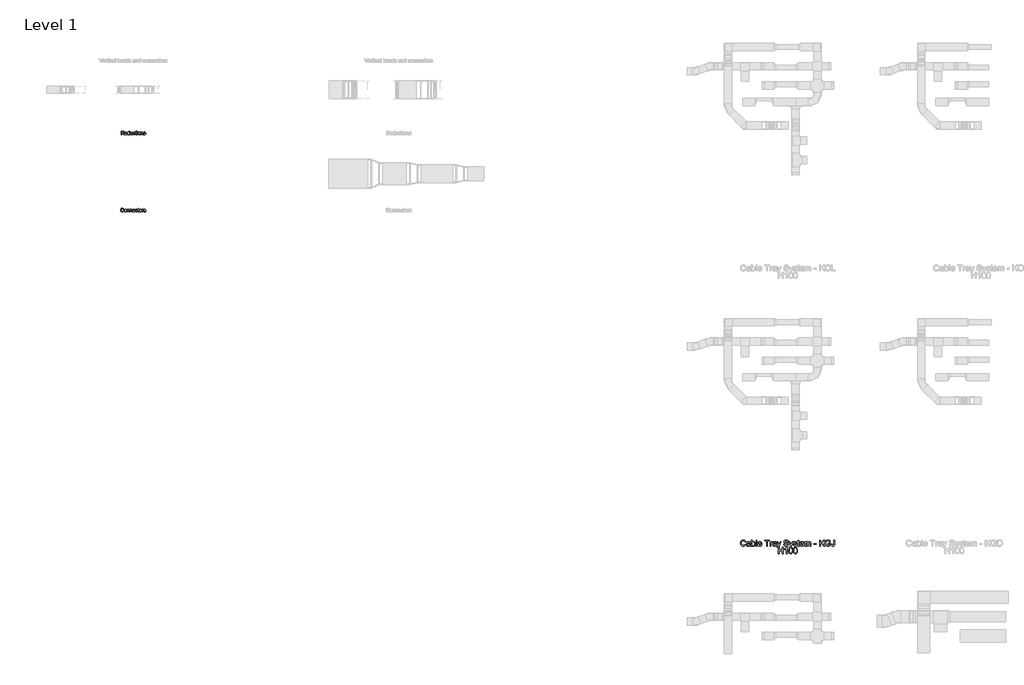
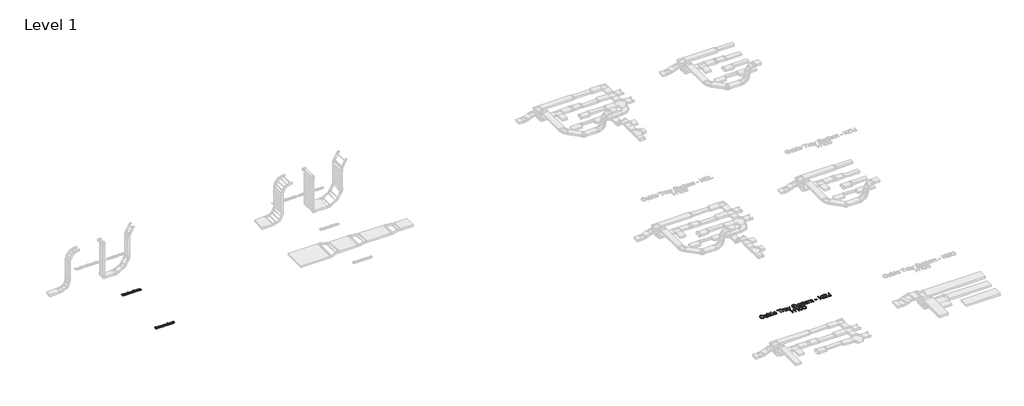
# One storey, part 93 of 106: 3 proxies.
"""IFC4 building model written with IfcOpenShell, lengths in millimetres."""

from ifc_helpers import new_model, si_unit, origin, origin_with_axes, place, context, project, spatial, polyline, outline, extrude, element, save

model = new_model("IFC4")

# Units and contexts
model_context = context("Model", 3, world=origin())
ifc_project = project(units=[si_unit("LENGTHUNIT", "METRE", prefix="MILLI")], contexts=[model_context])

# Site, building, storey
site = spatial("IfcSite", under=ifc_project)
building = spatial("IfcBuilding", under=site)
storey = spatial("IfcBuildingStorey", under=building, Name="Level 1", Elevation=0.0)

# Proxies
placement = place(None, origin())
element("IfcBuildingElementProxy", 1, Name="150mm Arial 2", ObjectType="150mm Arial 2", at=placement, inside=storey, context=model_context, shape_type="SweptSolid", body=[
    extrude(outline(polyline([(131812.5466362, 54347.8476348), (131812.5466362, 54498.5321), (131877.4778084, 54498.5321), (131907.6257379, 54494.467004), (131916.9055612, 54488.8384094), (131924.1068512, 54480.0828179), (131928.7283688, 54469.2257006), (131930.2688747, 54457.2925283), (131927.7166933, 54442.4484898), (131920.0601493, 54430.1428371), (131907.0693163, 54421.1205312), (131888.5142682, 54416.1265331), (131899.2196343, 54408.0699174), (131914.4867371, 54388.6825362), (131939.6130773, 54347.8476348), (131917.7240986, 54347.8476348), (131898.1159883, 54379.0808162), (131883.9525315, 54399.7557843), (131874.0013235, 54409.5230513), (131865.0433969, 54413.1099007), (131854.1173017, 54413.7720883), (131831.3821944, 54413.7720883), (131831.3821944, 54347.8476348), (131812.5466362, 54347.8476348)]), holes=[polyline([(131831.3821944, 54432.6076465), (131873.541471, 54432.6076465), (131895.0441736, 54435.2747909), (131907.2578559, 54443.8096532), (131911.4333165, 54456.5935526), (131909.4421552, 54465.7814054), (131903.4686713, 54473.1850305), (131893.1909681, 54478.068664), (131878.2871487, 54479.6965419), (131831.3821944, 54479.6965419), (131831.3821944, 54432.6076465)])]), origin_with_axes(), (0.0, 0.0, 1.0), 15.0),
    extrude(outline(polyline([(132038.3526048, 54380.8098615), (132056.820281, 54378.4554168), (132050.1662154, 54364.5402803), (132039.5482213, 54354.1384169), (132025.205422, 54347.6544967), (132007.3769409, 54345.49319), (131985.27643, 54349.2225937), (131968.2710848, 54360.4108049), (131957.427763, 54378.3312566), (131953.8133224, 54402.2573819), (131957.4645512, 54426.988249), (131968.4182376, 54445.4835163), (131985.1936565, 54457.0166168), (132006.3100831, 54460.8609837), (132026.7689205, 54457.0258139), (132043.1166767, 54445.5203045), (132053.8358383, 54427.0618254), (132057.4088922, 54402.3677465), (132057.2985276, 54397.2909749), (131972.6488805, 54397.2909749), (131975.9092347, 54383.1918975), (131983.4830053, 54372.8268223), (131994.413699, 54366.4532667), (132007.7448228, 54364.3287482), (132026.212499, 54368.2650855), (132038.3526048, 54380.8098615)]), holes=[polyline([(131972.6488805, 54416.1265331), (132038.573334, 54416.1265331), (132036.0257512, 54426.0777411), (132031.0317531, 54433.1962577), (132020.0504756, 54439.8181336), (132006.2365067, 54442.0254255), (131993.5399793, 54440.2641905), (131983.0415469, 54434.9804853), (131975.7436878, 54426.7445272), (131972.6488805, 54416.1265331)])]), origin_with_axes(), (0.0, 0.0, 1.0), 15.0),
    extrude(outline(polyline([(132144.5233487, 54347.8476348), (132144.5233487, 54365.6163351), (132132.0613461, 54350.5239763), (132114.8352716, 54345.49319), (132102.6583776, 54347.3142059), (132091.5115531, 54352.7772535), (132082.07538, 54361.5006553), (132075.0304398, 54373.1027337), (132070.643447, 54387.1144392), (132069.181116, 54403.0667223), (132074.5705873, 54433.0491049), (132081.3028278, 54444.9408904), (132090.7206069, 54453.6872848), (132102.1111531, 54459.067559), (132114.7616952, 54460.8609837), (132132.1257254, 54455.7290299), (132144.5233487, 54442.3933075), (132144.5233487, 54498.5321), (132163.3589068, 54498.5321), (132163.3589068, 54347.8476348), (132144.5233487, 54347.8476348)]), holes=[polyline([(132088.0166742, 54403.1402987), (132090.1411927, 54386.1027638), (132096.5147483, 54373.9856505), (132105.7761775, 54366.7429738), (132116.564317, 54364.3287482), (132127.347858, 54366.6326092), (132136.3747625, 54373.5441921), (132142.4862021, 54385.1922558), (132144.5233487, 54401.7055589), (132142.4494139, 54419.7593678), (132136.2276097, 54432.2765527), (132126.970779, 54439.5882073), (132115.7917648, 54442.0254255), (132104.8932607, 54439.6847764), (132095.9629253, 54432.6628288), (132090.003237, 54420.6008979), (132088.0166742, 54403.1402987)])]), origin_with_axes(), (0.0, 0.0, 1.0), 15.0),
    extrude(outline(polyline([(132262.2455871, 54347.8476348), (132262.2455871, 54366.8671339), (132247.4935191, 54350.836676), (132228.2532908, 54345.49319), (132210.5397727, 54349.2455864), (132198.3260904, 54358.6633654), (132192.71589, 54372.5325167), (132191.612244, 54390.0436996), (132191.612244, 54458.5065389), (132210.4478022, 54458.5065389), (132210.4478022, 54398.9096557), (132211.5882364, 54379.7062156), (132219.0378468, 54368.4306324), (132233.0725449, 54364.3287482), (132248.7995002, 54368.5226029), (132259.1921666, 54379.9453389), (132262.2455871, 54400.9330067), (132262.2455871, 54458.5065389), (132281.0811453, 54458.5065389), (132281.0811453, 54347.8476348), (132262.2455871, 54347.8476348)])), origin_with_axes(), (0.0, 0.0, 1.0), 15.0),
    extrude(outline(polyline([(132377.6133808, 54387.8731959), (132396.448939, 54385.5187511), (132391.1974235, 54368.7663247), (132381.3289889, 54356.1065856), (132367.7725374, 54348.1465389), (132351.4569709, 54345.49319), (132331.4211978, 54349.1950026), (132315.7540233, 54360.3004403), (132305.641867, 54378.3220596), (132302.2711482, 54402.7724167), (132303.7104865, 54419.5340401), (132308.0285014, 54434.0607803), (132315.2941708, 54445.7916175), (132325.5764726, 54454.1655314), (132337.8775268, 54459.1871206), (132351.1994535, 54460.8609837), (132367.1149484, 54458.5617212), (132379.8390669, 54451.6639338), (132388.9671389, 54440.5355035), (132394.0944942, 54425.5443122), (132375.258936, 54423.1898674), (132366.5217386, 54437.2981419), (132351.3466063, 54442.0254255), (132339.1743108, 54439.6985719), (132329.5128099, 54432.7180111), (132323.2082322, 54420.7066639), (132321.1067063, 54403.2874515), (132323.162247, 54385.6337142), (132329.3288689, 54373.5809803), (132338.8156259, 54366.6418062), (132350.8315715, 54364.3287482), (132360.5850429, 54365.772685), (132368.5818778, 54370.1044955), (132374.3990119, 54377.4345442), (132377.6133808, 54387.8731959)])), origin_with_axes(), (0.0, 0.0, 1.0), 15.0),
    extrude(outline(polyline([(132452.9556134, 54363.556196), (132455.3100582, 54347.2958118), (132441.2201778, 54345.49319), (132425.4380402, 54348.620187), (132417.5653655, 54356.8239555), (132415.2844971, 54378.1978994), (132415.2844971, 54439.6709808), (132401.1578285, 54439.6709808), (132401.1578285, 54458.5065389), (132415.2844971, 54458.5065389), (132415.2844971, 54485.3987128), (132434.1200553, 54496.4719608), (132434.1200553, 54458.5065389), (132452.9556134, 54458.5065389), (132452.9556134, 54439.6709808), (132434.1200553, 54439.6709808), (132434.1200553, 54378.7497224), (132435.1133366, 54369.0376377), (132438.3323041, 54365.597941), (132444.7518449, 54364.3287482), (132452.9556134, 54363.556196)])), origin_with_axes(), (0.0, 0.0, 1.0), 15.0),
    extrude(outline(polyline([(132471.7911716, 54479.6965419), (132471.7911716, 54498.5321), (132490.6267297, 54498.5321), (132490.6267297, 54479.6965419), (132471.7911716, 54479.6965419)])), origin_with_axes(), (0.0, 0.0, 1.0), 15.0),
    extrude(outline(polyline([(132471.7911716, 54347.8476348), (132471.7911716, 54458.5065389), (132490.6267297, 54458.5065389), (132490.6267297, 54347.8476348), (132471.7911716, 54347.8476348)])), origin_with_axes(), (0.0, 0.0, 1.0), 15.0),
    extrude(outline(polyline([(132514.1711774, 54403.1770869), (132518.2454705, 54429.8577286), (132530.4683498, 54448.6105133), (132545.5699057, 54457.7983661), (132563.6513058, 54460.8609837), (132583.4387586, 54457.13158), (132599.2438888, 54445.9433688), (132609.6043655, 54428.179267), (132613.0578577, 54404.7221912), (132611.5311474, 54385.693495), (132606.9510166, 54371.2081415), (132599.4508224, 54360.3602211), (132589.1639221, 54352.2438246), (132576.9456414, 54347.1808487), (132563.6513058, 54345.49319), (132543.6247296, 54349.2087982), (132527.8379935, 54360.3556226), (132517.5878814, 54378.492205), (132514.1711774, 54403.1770869)]), holes=[polyline([(132533.0067356, 54403.2138751), (132535.1864364, 54386.1671431), (132541.7255388, 54374.0224387), (132551.5663822, 54366.7521708), (132563.6513058, 54364.3287482), (132575.681047, 54366.7659664), (132585.5034963, 54374.077621), (132592.0425987, 54386.3832738), (132594.2222996, 54403.8024862), (132592.0288032, 54420.3525775), (132585.448314, 54432.331735), (132575.6120691, 54439.6020029), (132563.6513058, 54442.0254255), (132551.5663822, 54439.6112), (132541.7255388, 54432.3685232), (132535.1864364, 54420.25141), (132533.0067356, 54403.2138751)])]), origin_with_axes(), (0.0, 0.0, 1.0), 15.0),
    extrude(outline(polyline([(132634.2478606, 54347.8476348), (132634.2478606, 54458.5065389), (132653.0834188, 54458.5065389), (132653.0834188, 54443.0554951), (132667.4859989, 54456.4096116), (132687.1492915, 54460.8609837), (132704.936386, 54457.2741342), (132717.0764918, 54447.8563552), (132722.7234805, 54434.0055981), (132723.7167619, 54415.7954393), (132723.7167619, 54347.8476348), (132704.8812037, 54347.8476348), (132704.8812037, 54413.2570535), (132702.7106999, 54429.9221079), (132695.0403603, 54438.7328817), (132682.1093082, 54442.0254255), (132671.0774469, 54440.1768185), (132661.6734634, 54434.6309974), (132655.2309299, 54423.9164343), (132653.0834188, 54406.5616012), (132653.0834188, 54347.8476348), (132634.2478606, 54347.8476348)])), origin_with_axes(), (0.0, 0.0, 1.0), 15.0),
    extrude(outline(polyline([(132742.55232, 54380.8098615), (132761.3878782, 54383.1643063), (132764.3585253, 54375.1076906), (132770.1066815, 54369.1847905), (132790.0826738, 54364.3287482), (132809.2861139, 54368.7801203), (132815.5401079, 54379.227969), (132813.9674123, 54384.028829), (132809.2493257, 54387.6892549), (132789.8619446, 54393.060332), (132761.4982428, 54402.275776), (132749.1190136, 54413.0363243), (132744.9067648, 54428.2298507), (132748.2912791, 54442.2645488), (132757.5251172, 54452.988309), (132769.4996762, 54458.5617212), (132785.704878, 54460.8609837), (132808.6239263, 54457.1637696), (132823.1920534, 54447.1573794), (132829.6667765, 54430.2532017), (132810.8312183, 54427.8987569), (132803.7494899, 54438.2914233), (132787.176406, 54442.0254255), (132769.1501883, 54438.4569702), (132763.7423229, 54430.1428371), (132765.9864031, 54424.6613954), (132773.0129492, 54420.5043288), (132789.2365452, 54416.4944151), (132816.8828771, 54407.628459), (132829.7219588, 54397.5852805), (132834.375666, 54381.2145317), (132828.9126184, 54363.188314), (132813.1488749, 54350.1101091), (132789.8251564, 54345.49319), (132770.8332484, 54347.7188761), (132756.9732942, 54354.3959343), (132747.721062, 54365.4507882), (132742.55232, 54380.8098615)])), origin_with_axes(), (0.0, 0.0, 1.0), 15.0),
])
element("IfcBuildingElementProxy", 2, Name="150mm Arial 2", ObjectType="150mm Arial 2", at=placement, inside=storey, context=model_context, shape_type="SweptSolid", body=[
    extrude(outline(polyline([(131906.724427, 51201.4112533), (131925.5599851, 51196.5552109), (131916.868773, 51174.6064514), (131903.229548, 51158.5713949), (131885.3136949, 51148.7627412), (131863.7925981, 51145.49319), (131841.9450061, 51147.9671964), (131824.5947715, 51155.3892157), (131811.2958374, 51167.5017304), (131801.6021469, 51184.0472231), (131795.6838453, 51203.4989836), (131793.7110781, 51224.3303016), (131795.9413626, 51246.3020537), (131802.6322164, 51265.2755676), (131813.4341515, 51280.6484365), (131827.99768, 51291.8182536), (131845.2697397, 51298.619472), (131864.1972683, 51300.8865448), (131884.8492438, 51297.9526859), (131901.9235669, 51289.1511091), (131914.8868087, 51275.0244405), (131923.2055404, 51256.115306), (131904.3699822, 51251.6271456), (131897.8400768, 51265.3629396), (131888.9189384, 51274.7853172), (131877.4962025, 51280.2345693), (131863.4615043, 51282.0509866), (131847.2838936, 51280.0368327), (131833.9941565, 51273.9943709), (131823.9095913, 51264.5581977), (131817.3474962, 51252.3629096), (131812.5466362, 51224.3670898), (131813.9675804, 51206.9662714), (131818.230413, 51191.9198978), (131825.4960824, 51179.8027846), (131835.925537, 51171.1897474), (131848.4289263, 51166.043998), (131861.9164, 51164.3287482), (131877.6387567, 51166.6647988), (131890.7399543, 51173.6729508), (131900.6313814, 51185.2796278), (131906.724427, 51201.4112533)])), origin_with_axes(), (0.0, 0.0, 1.0), 15.0),
    extrude(outline(polyline([(131944.3955433, 51203.1770869), (131948.4698364, 51229.8577286), (131960.6927157, 51248.6105133), (131975.7942716, 51257.7983661), (131993.8756716, 51260.8609837), (132013.6631244, 51257.13158), (132029.4682547, 51245.9433688), (132039.8287314, 51228.179267), (132043.2822236, 51204.7221912), (132041.7555133, 51185.693495), (132037.1753825, 51171.2081415), (132029.6751883, 51160.3602211), (132019.388288, 51152.2438246), (132007.1700072, 51147.1808487), (131993.8756716, 51145.49319), (131973.8490955, 51149.2087982), (131958.0623594, 51160.3556226), (131947.8122473, 51178.492205), (131944.3955433, 51203.1770869)]), holes=[polyline([(131963.2311014, 51203.2138751), (131965.4108023, 51186.1671431), (131971.9499047, 51174.0224387), (131981.7907481, 51166.7521708), (131993.8756716, 51164.3287482), (132005.9054129, 51166.7659664), (132015.7278621, 51174.077621), (132022.2669646, 51186.3832738), (132024.4466654, 51203.8024862), (132022.253169, 51220.3525775), (132015.6726798, 51232.331735), (132005.836435, 51239.6020029), (131993.8756716, 51242.0254255), (131981.7907481, 51239.6112), (131971.9499047, 51232.3685232), (131965.4108023, 51220.25141), (131963.2311014, 51203.2138751)])]), origin_with_axes(), (0.0, 0.0, 1.0), 15.0),
    extrude(outline(polyline([(132064.4722265, 51147.8476348), (132064.4722265, 51258.5065389), (132083.3077847, 51258.5065389), (132083.3077847, 51243.0554951), (132097.7103648, 51256.4096116), (132117.3736574, 51260.8609837), (132135.1607519, 51257.2741342), (132147.3008577, 51247.8563552), (132152.9478463, 51234.0055981), (132153.9411277, 51215.7954393), (132153.9411277, 51147.8476348), (132135.1055696, 51147.8476348), (132135.1055696, 51213.2570535), (132132.9350658, 51229.9221079), (132125.2647262, 51238.7328817), (132112.3336741, 51242.0254255), (132101.3018127, 51240.1768185), (132091.8978292, 51234.6309974), (132085.4552958, 51223.9164343), (132083.3077847, 51206.5616012), (132083.3077847, 51147.8476348), (132064.4722265, 51147.8476348)])), origin_with_axes(), (0.0, 0.0, 1.0), 15.0),
    extrude(outline(polyline([(132179.8400202, 51147.8476348), (132179.8400202, 51258.5065389), (132198.6755783, 51258.5065389), (132198.6755783, 51243.0554951), (132213.0781585, 51256.4096116), (132232.7414511, 51260.8609837), (132250.5285456, 51257.2741342), (132262.6686514, 51247.8563552), (132268.31564, 51234.0055981), (132269.3089214, 51215.7954393), (132269.3089214, 51147.8476348), (132250.4733633, 51147.8476348), (132250.4733633, 51213.2570535), (132248.3028595, 51229.9221079), (132240.6325199, 51238.7328817), (132227.7014678, 51242.0254255), (132216.6696064, 51240.1768185), (132207.2656229, 51234.6309974), (132200.8230895, 51223.9164343), (132198.6755783, 51206.5616012), (132198.6755783, 51147.8476348), (132179.8400202, 51147.8476348)])), origin_with_axes(), (0.0, 0.0, 1.0), 15.0),
    extrude(outline(polyline([(132372.6837621, 51180.8098615), (132391.1514382, 51178.4554168), (132384.4973726, 51164.5402803), (132373.8793785, 51154.1384169), (132359.5365793, 51147.6544967), (132341.7080981, 51145.49319), (132319.6075872, 51149.2225937), (132302.602242, 51160.4108049), (132291.7589202, 51178.3312566), (132288.1444796, 51202.2573819), (132291.7957084, 51226.988249), (132302.7493948, 51245.4835163), (132319.5248138, 51257.0166168), (132340.6412403, 51260.8609837), (132361.1000777, 51257.0258139), (132377.4478339, 51245.5203045), (132388.1669955, 51227.0618254), (132391.7400494, 51202.3677465), (132391.6296848, 51197.2909749), (132306.9800377, 51197.2909749), (132310.2403919, 51183.1918975), (132317.8141625, 51172.8268223), (132328.7448563, 51166.4532667), (132342.0759801, 51164.3287482), (132360.5436562, 51168.2650855), (132372.6837621, 51180.8098615)]), holes=[polyline([(132306.9800377, 51216.1265331), (132372.9044913, 51216.1265331), (132370.3569084, 51226.0777411), (132365.3629104, 51233.1962577), (132354.3816328, 51239.8181336), (132340.5676639, 51242.0254255), (132327.8711365, 51240.2641905), (132317.3727041, 51234.9804853), (132310.074845, 51226.7445272), (132306.9800377, 51216.1265331)])]), origin_with_axes(), (0.0, 0.0, 1.0), 15.0),
    extrude(outline(polyline([(132481.2089506, 51187.8731959), (132500.0445088, 51185.5187511), (132494.7929933, 51168.7663247), (132484.9245588, 51156.1065856), (132471.3681073, 51148.1465389), (132455.0525408, 51145.49319), (132435.0167676, 51149.1950026), (132419.3495932, 51160.3004403), (132409.2374368, 51178.3220596), (132405.866718, 51202.7724167), (132407.3060563, 51219.5340401), (132411.6240713, 51234.0607803), (132418.8897407, 51245.7916175), (132429.1720424, 51254.1655314), (132441.4730966, 51259.1871206), (132454.7950234, 51260.8609837), (132470.7105182, 51258.5617212), (132483.4346367, 51251.6639338), (132492.5627087, 51240.5355035), (132497.690064, 51225.5443122), (132478.8545059, 51223.1898674), (132470.1173085, 51237.2981419), (132454.9421762, 51242.0254255), (132442.7698807, 51239.6985719), (132433.1083798, 51232.7180111), (132426.8038021, 51220.7066639), (132424.7022762, 51203.2874515), (132426.7578168, 51185.6337142), (132432.9244388, 51173.5809803), (132442.4111957, 51166.6418062), (132454.4271414, 51164.3287482), (132464.1806128, 51165.772685), (132472.1774477, 51170.1044955), (132477.9945817, 51177.4345442), (132481.2089506, 51187.8731959)])), origin_with_axes(), (0.0, 0.0, 1.0), 15.0),
    extrude(outline(polyline([(132556.5511833, 51163.556196), (132558.905628, 51147.2958118), (132544.8157476, 51145.49319), (132529.03361, 51148.620187), (132521.1609353, 51156.8239555), (132518.8800669, 51178.1978994), (132518.8800669, 51239.6709808), (132504.7533983, 51239.6709808), (132504.7533983, 51258.5065389), (132518.8800669, 51258.5065389), (132518.8800669, 51285.3987128), (132537.7156251, 51296.4719608), (132537.7156251, 51258.5065389), (132556.5511833, 51258.5065389), (132556.5511833, 51239.6709808), (132537.7156251, 51239.6709808), (132537.7156251, 51178.7497224), (132538.7089065, 51169.0376377), (132541.9278739, 51165.597941), (132548.3474148, 51164.3287482), (132556.5511833, 51163.556196)])), origin_with_axes(), (0.0, 0.0, 1.0), 15.0),
    extrude(outline(polyline([(132570.6778519, 51203.1770869), (132574.752145, 51229.8577286), (132586.9750243, 51248.6105133), (132602.0765802, 51257.7983661), (132620.1579802, 51260.8609837), (132639.945433, 51257.13158), (132655.7505633, 51245.9433688), (132666.1110399, 51228.179267), (132669.5645322, 51204.7221912), (132668.0378219, 51185.693495), (132663.4576911, 51171.2081415), (132655.9574969, 51160.3602211), (132645.6705966, 51152.2438246), (132633.4523158, 51147.1808487), (132620.1579802, 51145.49319), (132600.1314041, 51149.2087982), (132584.344668, 51160.3556226), (132574.0945559, 51178.492205), (132570.6778519, 51203.1770869)]), holes=[polyline([(132589.51341, 51203.2138751), (132591.6931108, 51186.1671431), (132598.2322133, 51174.0224387), (132608.0730567, 51166.7521708), (132620.1579802, 51164.3287482), (132632.1877215, 51166.7659664), (132642.0101707, 51174.077621), (132648.5492732, 51186.3832738), (132650.728974, 51203.8024862), (132648.5354776, 51220.3525775), (132641.9549884, 51232.331735), (132632.1187436, 51239.6020029), (132620.1579802, 51242.0254255), (132608.0730567, 51239.6112), (132598.2322133, 51232.3685232), (132591.6931108, 51220.25141), (132589.51341, 51203.2138751)])]), origin_with_axes(), (0.0, 0.0, 1.0), 15.0),
    extrude(outline(polyline([(132690.7545351, 51147.8476348), (132690.7545351, 51258.5065389), (132707.2356485, 51258.5065389), (132707.2356485, 51242.1357901), (132718.9342959, 51257.2189519), (132730.7065198, 51260.8609837), (132749.6156543, 51255.0484482), (132743.3248722, 51238.1626646), (132730.0811204, 51242.0254255), (132719.4309366, 51238.3098174), (132712.6435138, 51228.0091215), (132709.5900932, 51206.0097782), (132709.5900932, 51147.8476348), (132690.7545351, 51147.8476348)])), origin_with_axes(), (0.0, 0.0, 1.0), 15.0),
    extrude(outline(polyline([(132754.3245439, 51180.8098615), (132773.160102, 51183.1643063), (132776.1307491, 51175.1076906), (132781.8789053, 51169.1847905), (132801.8548976, 51164.3287482), (132821.0583378, 51168.7801203), (132827.3123317, 51179.227969), (132825.7396362, 51184.028829), (132821.0215496, 51187.6892549), (132801.6341684, 51193.060332), (132773.2704666, 51202.275776), (132760.8912375, 51213.0363243), (132756.6789886, 51228.2298507), (132760.063503, 51242.2645488), (132769.2973411, 51252.988309), (132781.2719, 51258.5617212), (132797.4771019, 51260.8609837), (132820.3961502, 51257.1637696), (132834.9642772, 51247.1573794), (132841.4390003, 51230.2532017), (132822.6034422, 51227.8987569), (132815.5217138, 51238.2914233), (132798.9486299, 51242.0254255), (132780.9224121, 51238.4569702), (132775.5145468, 51230.1428371), (132777.758627, 51224.6613954), (132784.7851731, 51220.5043288), (132801.008769, 51216.4944151), (132828.655101, 51207.628459), (132841.4941826, 51197.5852805), (132846.1478899, 51181.2145317), (132840.6848422, 51163.188314), (132824.9210987, 51150.1101091), (132801.5973802, 51145.49319), (132782.6054722, 51147.7188761), (132768.7455181, 51154.3959343), (132759.4932859, 51165.4507882), (132754.3245439, 51180.8098615)])), origin_with_axes(), (0.0, 0.0, 1.0), 15.0),
])
element("IfcBuildingElementProxy", 3, Name="250mm Arial 3", ObjectType="250mm Arial 3", at=placement, inside=storey, context=model_context, shape_type="SweptSolid", body=[
    extrude(outline(polyline([(157659.6286386, 37392.4106539), (157691.0212356, 37384.31725), (157676.535882, 37347.7359841), (157653.8038404, 37321.01089), (157623.9440851, 37304.6631338), (157588.0755906, 37299.2138818), (157551.6629373, 37303.3372258), (157522.7458796, 37315.7072579), (157500.5809894, 37335.8947824), (157484.4248384, 37363.4706036), (157474.5610024, 37395.8902044), (157471.2730571, 37430.6090677), (157474.9901981, 37467.2286547), (157486.1416211, 37498.8511778), (157504.1448462, 37524.472626), (157528.4173937, 37543.0889877), (157557.2041598, 37554.4243517), (157588.7500409, 37558.2028064), (157623.1700001, 37553.3130415), (157651.6272053, 37538.643747), (157673.2326083, 37515.0992993), (157687.097161, 37483.584075), (157655.704564, 37476.1038078), (157644.8213883, 37498.9967978), (157629.9528244, 37514.7007605), (157610.9149311, 37523.7828472), (157587.5237676, 37526.8102095), (157560.561083, 37523.4532863), (157538.4115212, 37513.3825166), (157521.6039126, 37497.6555613), (157510.6670874, 37477.3300811), (157504.6660124, 37454.3527848), (157502.665654, 37430.6703814), (157505.0338944, 37401.6690174), (157512.1386154, 37376.5917281), (157524.2480644, 37356.3965394), (157541.6304887, 37342.0414774), (157562.4694709, 37333.4652284), (157584.9485936, 37330.6064787), (157611.1525216, 37334.4998965), (157632.9878508, 37346.1801498), (157649.4735627, 37365.5246114), (157659.6286386, 37392.4106539)])), origin_with_axes(), (0.0, 0.0, 1.0), 15.0),
    extrude(outline(polyline([(157847.9842202, 37326.6824041), (157832.9853647, 37313.8218627), (157817.5419851, 37305.406562), (157801.3015278, 37300.7620518), (157783.9114394, 37299.2138818), (157757.6768546, 37302.938687), (157738.3247288, 37314.1131026), (157726.3915566, 37331.0816596), (157722.4138325, 37352.1888891), (157723.9160173, 37365.2027147), (157728.4225717, 37377.0209238), (157744.2108407, 37395.0471415), (157766.1917899, 37405.3478374), (157793.3537439, 37410.0689897), (157847.8002792, 37420.8601949), (157847.9842202, 37427.8499528), (157845.8229135, 37441.8601254), (157839.3389933, 37451.0265185), (157824.8383113, 37457.8323354), (157804.6354584, 37460.100941), (157785.9347903, 37458.591092), (157772.8749795, 37454.0615449), (157763.9691695, 37445.6845653), (157757.730504, 37432.6324187), (157726.3379071, 37436.5564933), (157731.7871592, 37453.7243198), (157739.9188841, 37467.2133262), (157751.4918385, 37477.5293505), (157767.2647791, 37485.1782303), (157786.5555912, 37489.914711), (157808.6821604, 37491.4935379), (157829.904353, 37490.098652), (157846.72729, 37485.9139943), (157859.4115547, 37479.6216794), (157868.2177299, 37471.9038217), (157877.8439755, 37450.5973228), (157879.3768171, 37423.1288005), (157879.3768171, 37384.0719953), (157880.9709724, 37329.5334895), (157887.2249663, 37303.1379564), (157855.8323694, 37303.1379564), (157847.9842202, 37326.6824041)]), holes=[polyline([(157847.9842202, 37389.4675979), (157797.3391322, 37379.8413524), (157770.3304624, 37374.7523181), (157758.098386, 37366.4749732), (157753.8064294, 37354.3961811), (157756.1440129, 37345.0611754), (157763.1567635, 37337.4122956), (157774.6913968, 37332.3079329), (157790.5946289, 37330.6064787), (157807.455887, 37332.4842097), (157822.3551078, 37338.1174028), (157834.4339, 37346.4177403), (157842.8338722, 37356.2969047), (157846.5586774, 37366.4749732), (157847.8002792, 37380.5771164), (157847.9842202, 37389.4675979)])]), origin_with_axes(), (0.0, 0.0, 1.0), 15.0),
    extrude(outline(polyline([(157953.9342348, 37303.1379564), (157922.5416379, 37303.1379564), (157922.5416379, 37554.2787318), (157953.9342348, 37554.2787318), (157953.9342348, 37461.1432733), (157964.2579233, 37474.4215141), (157975.915184, 37483.9059718), (157988.906017, 37489.5966464), (158003.2304221, 37491.4935379), (158019.4019015, 37489.7844195), (158034.6843327, 37484.6570642), (158048.2039961, 37476.4333687), (158059.0871717, 37465.4352299), (158074.078363, 37435.5448178), (158079.5046225, 37398.1128248), (158073.8867578, 37356.2049342), (158066.864427, 37339.2746982), (158057.0331639, 37325.0269351), (158045.2321993, 37313.7337243), (158032.300764, 37305.6671451), (158018.2388579, 37300.8271976), (158003.0464811, 37299.2138818), (157988.2507272, 37301.2947143), (157975.1334348, 37307.5372119), (157963.694604, 37317.9413746), (157953.9342348, 37332.5072023), (157953.9342348, 37303.1379564)]), holes=[polyline([(157953.9342348, 37396.6412968), (157956.0802131, 37370.4603615), (157962.518148, 37352.7407121), (157978.9655389, 37336.140037), (158000.3486798, 37330.6064787), (158018.4668681, 37334.6838375), (158033.9485687, 37346.9159138), (158044.5711614, 37367.2260656), (158048.1120256, 37395.5376509), (158044.7167813, 37424.2631033), (158034.5310486, 37444.3433289), (158019.5321931, 37456.161538), (158001.6975805, 37460.100941), (157983.5793922, 37456.0235822), (157968.0976916, 37443.7915059), (157957.475099, 37423.8492361), (157953.9342348, 37396.6412968)])]), origin_with_axes(), (0.0, 0.0, 1.0), 15.0),
    extrude(outline(polyline([(158114.821294, 37303.1379564), (158114.821294, 37554.2787318), (158146.2138909, 37554.2787318), (158146.2138909, 37303.1379564), (158114.821294, 37303.1379564)])), origin_with_axes(), (0.0, 0.0, 1.0), 15.0),
    extrude(outline(polyline([(158322.4293666, 37358.075001), (158353.2088269, 37354.1509264), (158342.1187176, 37330.9590323), (158324.4220608, 37313.6225933), (158300.5173953, 37302.8160596), (158270.80326, 37299.2138818), (158251.3246747, 37300.7678), (158233.9690752, 37305.4295547), (158218.7364613, 37313.1991458), (158205.6268332, 37324.0765733), (158195.0847147, 37337.759101), (158187.5546301, 37353.9439928), (158183.0365794, 37372.6312485), (158181.5305625, 37393.8208682), (158183.0519078, 37415.7290074), (158187.6159438, 37435.0389801), (158195.2226705, 37451.7507861), (158205.8720878, 37465.8644256), (158218.9472271, 37477.0771622), (158233.8311195, 37485.0862598), (158250.523765, 37489.8917184), (158269.0251637, 37491.4935379), (158286.9306701, 37489.8955505), (158303.1232261, 37485.1015883), (158317.6028315, 37477.1116512), (158330.3694864, 37465.9257393), (158340.7908935, 37451.8427566), (158348.2347557, 37435.1616074), (158352.7010731, 37415.8822916), (158354.1898455, 37394.0048092), (158354.0059045, 37385.5435233), (158212.9231594, 37385.5435233), (158218.357083, 37362.0450609), (158230.980034, 37344.7699355), (158249.197857, 37334.1473429), (158271.4163966, 37330.6064787), (158288.1243706, 37332.2466193), (158302.1958569, 37337.1670409), (158313.6308556, 37345.6743121), (158322.4293666, 37358.075001)]), holes=[polyline([(158212.9231594, 37416.9361202), (158322.7972486, 37416.9361202), (158318.5512773, 37433.5214669), (158310.2279471, 37445.3856612), (158291.9258179, 37456.4221211), (158268.9025363, 37460.100941), (158247.7416574, 37457.1655493), (158230.24427, 37448.359374), (158218.0811715, 37434.632777), (158212.9231594, 37416.9361202)])]), origin_with_axes(), (0.0, 0.0, 1.0), 15.0),
    extrude(outline(polyline([(158550.3935763, 37303.1379564), (158550.3935763, 37522.8861348), (158467.9880094, 37522.8861348), (158467.9880094, 37554.2787318), (158664.1917401, 37554.2787318), (158664.1917401, 37522.8861348), (158581.7861732, 37522.8861348), (158581.7861732, 37303.1379564), (158550.3935763, 37303.1379564)])), origin_with_axes(), (0.0, 0.0, 1.0), 15.0),
    extrude(outline(polyline([(158695.5843371, 37303.1379564), (158695.5843371, 37487.5694633), (158723.0528594, 37487.5694633), (158723.0528594, 37460.284882), (158733.2002711, 37476.1038078), (158742.5506051, 37485.423485), (158762.1709782, 37491.4935379), (158777.805963, 37489.0716481), (158793.6862024, 37481.8059787), (158783.2015656, 37453.6630061), (158761.1286459, 37460.100941), (158751.7553192, 37458.5527709), (158743.3783396, 37453.9082608), (158732.0659683, 37436.7404343), (158726.976934, 37400.0748621), (158726.976934, 37303.1379564), (158695.5843371, 37303.1379564)])), origin_with_axes(), (0.0, 0.0, 1.0), 15.0),
    extrude(outline(polyline([(158931.028814, 37326.6824041), (158916.0299585, 37313.8218627), (158900.5865789, 37305.406562), (158884.3461216, 37300.7620518), (158866.9560332, 37299.2138818), (158840.7214484, 37302.938687), (158821.3693226, 37314.1131026), (158809.4361504, 37331.0816596), (158805.4584263, 37352.1888891), (158806.9606111, 37365.2027147), (158811.4671655, 37377.0209238), (158827.2554345, 37395.0471415), (158849.2363837, 37405.3478374), (158876.3983377, 37410.0689897), (158930.844873, 37420.8601949), (158931.028814, 37427.8499528), (158928.8675073, 37441.8601254), (158922.3835871, 37451.0265185), (158907.8829051, 37457.8323354), (158887.6800522, 37460.100941), (158868.9793841, 37458.591092), (158855.9195733, 37454.0615449), (158847.0137633, 37445.6845653), (158840.7750978, 37432.6324187), (158809.3825009, 37436.5564933), (158814.831753, 37453.7243198), (158822.9634779, 37467.2133262), (158834.5364323, 37477.5293505), (158850.3093729, 37485.1782303), (158869.600185, 37489.914711), (158891.7267542, 37491.4935379), (158912.9489468, 37490.098652), (158929.7718838, 37485.9139943), (158942.4561485, 37479.6216794), (158951.2623237, 37471.9038217), (158960.8885693, 37450.5973228), (158962.4214109, 37423.1288005), (158962.4214109, 37384.0719953), (158964.0155662, 37329.5334895), (158970.2695601, 37303.1379564), (158938.8769632, 37303.1379564), (158931.028814, 37326.6824041)]), holes=[polyline([(158931.028814, 37389.4675979), (158880.383726, 37379.8413524), (158853.3750562, 37374.7523181), (158841.1429798, 37366.4749732), (158836.8510232, 37354.3961811), (158839.1886067, 37345.0611754), (158846.2013573, 37337.4122956), (158857.7359906, 37332.3079329), (158873.6392227, 37330.6064787), (158890.5004808, 37332.4842097), (158905.3997016, 37338.1174028), (158917.4784938, 37346.4177403), (158925.878466, 37356.2969047), (158929.6032712, 37366.4749732), (158930.844873, 37380.5771164), (158931.028814, 37389.4675979)])]), origin_with_axes(), (0.0, 0.0, 1.0), 15.0),
    extrude(outline(polyline([(159005.5862317, 37232.5046133), (159001.6621571, 37262.7322506), (159017.6037102, 37259.9731356), (159032.502931, 37263.4373577), (159041.6386672, 37273.0942601), (159050.2225804, 37296.2095122), (159052.6751271, 37303.8124067), (158985.9658586, 37487.5694633), (159019.0139245, 37487.5694633), (159054.4532234, 37385.1143277), (159066.7772702, 37344.1567989), (159079.101317, 37380.3931754), (159115.4603209, 37487.5694633), (159148.2631321, 37487.5694633), (159084.067724, 37298.7233725), (159067.3904069, 37257.7658437), (159058.8524789, 37244.6907044), (159049.1802481, 37235.6316103), (159037.9598472, 37230.3433066), (159024.7774091, 37228.5805387), (159005.5862317, 37232.5046133)])), origin_with_axes(), (0.0, 0.0, 1.0), 15.0),
    extrude(outline(polyline([(159264.5751563, 37389.4675979), (159295.9677532, 37389.4675979), (159299.5699311, 37372.0468526), (159306.0845081, 37358.0443442), (159316.2472482, 37346.9312422), (159330.7939154, 37338.1787164), (159348.5748785, 37332.4995381), (159368.4405062, 37330.6064787), (159385.9302294, 37332.0396856), (159401.2433175, 37336.3393065), (159413.6516706, 37343.1451234), (159422.427189, 37352.0969186), (159427.6465148, 37362.3746218), (159429.3862901, 37373.1581628), (159424.1746285, 37392.7478791), (159416.2345088, 37400.4963936), (159402.8374728, 37407.0033064), (159357.1281349, 37418.990128), (159307.923918, 37434.4718287), (159292.2965975, 37445.0331076), (159281.2218166, 37457.8323354), (159274.6229333, 37472.5936004), (159272.4233055, 37489.0409913), (159275.1440994, 37507.4274268), (159283.3064812, 37524.5722607), (159296.695853, 37539.1035995), (159315.0976169, 37549.64955), (159337.1858651, 37556.0644923), (159361.6346893, 37558.2028064), (159388.122193, 37555.9648576), (159411.2987587, 37549.2510112), (159430.3366519, 37538.1992229), (159444.4081382, 37522.9474485), (159453.3139482, 37504.4460498), (159456.8548124, 37483.6453887), (159425.4622155, 37483.6453887), (159419.6987309, 37502.3767136), (159407.6812524, 37515.8963769), (159388.9039422, 37524.0817513), (159362.8609627, 37526.8102095), (159336.2048464, 37524.1124082), (159317.9180456, 37516.0190043), (159307.3414382, 37504.1088247), (159303.8159024, 37489.9606963), (159306.3144343, 37477.8972325), (159313.81003, 37468.1943449), (159331.5296794, 37459.5184612), (159365.0682546, 37450.6586365), (159420.6184359, 37434.9010243), (159438.5143621, 37423.5120109), (159450.9993573, 37409.455853), (159458.3340046, 37392.8858348), (159460.778887, 37373.9552405), (159457.9661226, 37354.6031147), (159449.5278293, 37336.4006201), (159435.8088966, 37320.7349785), (159417.1542138, 37308.9934115), (159394.7210763, 37301.6587642), (159369.6667796, 37299.2138818), (159338.9103119, 37301.8503694), (159313.5954321, 37309.7598323), (159293.4309003, 37322.9729273), (159278.1254764, 37341.5203112), (159268.2999615, 37364.1143971), (159264.5751563, 37389.4675979)])), origin_with_axes(), (0.0, 0.0, 1.0), 15.0),
    extrude(outline(polyline([(159503.9437078, 37232.5046133), (159500.0196332, 37262.7322506), (159515.9611863, 37259.9731356), (159530.8604071, 37263.4373577), (159539.9961433, 37273.0942601), (159548.5800565, 37296.2095122), (159551.0326032, 37303.8124067), (159484.3233347, 37487.5694633), (159517.3714006, 37487.5694633), (159552.8106995, 37385.1143277), (159565.1347463, 37344.1567989), (159577.4587932, 37380.3931754), (159613.817797, 37487.5694633), (159646.6206083, 37487.5694633), (159582.4252001, 37298.7233725), (159565.747883, 37257.7658437), (159557.209955, 37244.6907044), (159547.5377242, 37235.6316103), (159536.3173234, 37230.3433066), (159523.1348852, 37228.5805387), (159503.9437078, 37232.5046133)])), origin_with_axes(), (0.0, 0.0, 1.0), 15.0),
    extrude(outline(polyline([(159660.9066924, 37358.075001), (159692.2992893, 37361.9990756), (159697.2503678, 37348.5713828), (159706.8306281, 37338.6998826), (159721.1013839, 37332.6298297), (159740.1239487, 37330.6064787), (159758.9165873, 37332.4612171), (159772.1296823, 37338.0254323), (159779.9471747, 37346.0881793), (159782.5530055, 37355.4385134), (159779.9318463, 37363.4399468), (159772.0683686, 37369.5406565), (159739.7560667, 37378.4924517), (159692.4832303, 37393.851525), (159680.5194013, 37401.5693827), (159671.8511818, 37411.7857723), (159666.5858707, 37423.8492361), (159664.830767, 37437.1083163), (159670.4716243, 37460.4994798), (159685.8613544, 37478.3724134), (159705.8189527, 37487.6614338), (159732.8276225, 37491.4935379), (159753.2604016, 37489.9530321), (159771.0260363, 37485.3315145), (159785.3121204, 37478.0811735), (159795.306248, 37468.6541974), (159801.9281239, 37456.3531432), (159806.0974532, 37440.4805679), (159774.7048563, 37436.5564933), (159770.7424606, 37446.4356577), (159762.9019756, 37453.8776039), (159751.1067591, 37458.5451067), (159735.2801691, 37460.100941), (159717.2539513, 37458.6140846), (159705.2364728, 37454.1535154), (159698.4766412, 37447.7155805), (159696.2233639, 37440.2966269), (159699.9634976, 37431.1608907), (159711.6744077, 37424.2324465), (159738.7137344, 37417.5492569), (159784.7909543, 37402.7726634), (159796.961717, 37395.7062634), (159806.1894237, 37386.0340326), (159812.0065577, 37373.7253142), (159813.9456024, 37358.7494513), (159811.6693326, 37343.2677507), (159804.840523, 37328.7057551), (159793.7197569, 37316.2054314), (159778.5676172, 37306.9087468), (159760.2654879, 37301.137598), (159739.694753, 37299.2138818), (159708.041573, 37302.9233586), (159684.9416494, 37314.0517889), (159669.5212625, 37332.4765455), (159660.9066924, 37358.075001)])), origin_with_axes(), (0.0, 0.0, 1.0), 15.0),
    extrude(outline(polyline([(159915.9715424, 37329.3188917), (159919.895617, 37302.2182514), (159896.412483, 37299.2138818), (159881.3446496, 37300.5167972), (159870.1089203, 37304.4255434), (159856.9877958, 37318.0984909), (159853.1863486, 37353.7217307), (159853.1863486, 37456.1768664), (159829.6419009, 37456.1768664), (159829.6419009, 37487.5694633), (159853.1863486, 37487.5694633), (159853.1863486, 37532.3897531), (159884.5789455, 37550.8451665), (159884.5789455, 37487.5694633), (159915.9715424, 37487.5694633), (159915.9715424, 37456.1768664), (159884.5789455, 37456.1768664), (159884.5789455, 37354.6414357), (159886.2344145, 37338.4546279), (159891.5993602, 37332.7218002), (159902.2985949, 37330.6064787), (159915.9715424, 37329.3188917)])), origin_with_axes(), (0.0, 0.0, 1.0), 15.0),
    extrude(outline(polyline([(160076.4907196, 37358.075001), (160107.2701799, 37354.1509264), (160096.1800706, 37330.9590323), (160078.4834138, 37313.6225933), (160054.5787483, 37302.8160596), (160024.864613, 37299.2138818), (160005.3860277, 37300.7678), (159988.0304282, 37305.4295547), (159972.7978143, 37313.1991458), (159959.6881862, 37324.0765733), (159949.1460677, 37337.759101), (159941.6159831, 37353.9439928), (159937.0979324, 37372.6312485), (159935.5919155, 37393.8208682), (159937.1132608, 37415.7290074), (159941.6772968, 37435.0389801), (159949.2840235, 37451.7507861), (159959.9334408, 37465.8644256), (159973.0085801, 37477.0771622), (159987.8924725, 37485.0862598), (160004.585118, 37489.8917184), (160023.0865167, 37491.4935379), (160040.9920231, 37489.8955505), (160057.1845791, 37485.1015883), (160071.6641845, 37477.1116512), (160084.4308394, 37465.9257393), (160094.8522465, 37451.8427566), (160102.2961087, 37435.1616074), (160106.7624261, 37415.8822916), (160108.2511985, 37394.0048092), (160108.0672575, 37385.5435233), (159966.9845124, 37385.5435233), (159972.418436, 37362.0450609), (159985.041387, 37344.7699355), (160003.25921, 37334.1473429), (160025.4777496, 37330.6064787), (160042.1857236, 37332.2466193), (160056.2572099, 37337.1670409), (160067.6922086, 37345.6743121), (160076.4907196, 37358.075001)]), holes=[polyline([(159966.9845124, 37416.9361202), (160076.8586016, 37416.9361202), (160072.6126303, 37433.5214669), (160064.2893001, 37445.3856612), (160045.9871709, 37456.4221211), (160022.9638893, 37460.100941), (160001.8030104, 37457.1655493), (159984.305623, 37448.359374), (159972.1425245, 37434.632777), (159966.9845124, 37416.9361202)])]), origin_with_axes(), (0.0, 0.0, 1.0), 15.0),
    extrude(outline(polyline([(160139.6437955, 37303.1379564), (160139.6437955, 37487.5694633), (160171.0363924, 37487.5694633), (160171.0363924, 37457.2191987), (160180.4786969, 37471.1603935), (160192.6188028, 37482.0818902), (160207.0428427, 37489.140626), (160223.3369494, 37491.4935379), (160240.7960157, 37489.0946407), (160254.79086, 37481.8979492), (160265.24484, 37470.3786442), (160272.0813137, 37455.0119067), (160283.5239766, 37470.9726204), (160296.5761232, 37482.3731301), (160311.2377536, 37489.213436), (160327.5088677, 37491.4935379), (160351.1069648, 37487.6997549), (160368.558367, 37476.3184056), (160379.3419079, 37457.0429219), (160382.9364216, 37429.5667354), (160382.9364216, 37303.1379564), (160351.5438247, 37303.1379564), (160351.5438247, 37416.0777289), (160348.6314256, 37442.2893211), (160338.085475, 37455.1958477), (160320.1512278, 37460.100941), (160303.1443497, 37456.9586156), (160289.279797, 37447.5316395), (160280.0597545, 37431.1762191), (160276.986407, 37407.248561), (160276.986407, 37303.1379564), (160245.5938101, 37303.1379564), (160245.5938101, 37419.5726079), (160243.7773927, 37437.3229141), (160238.3281407, 37449.9841861), (160228.7402162, 37457.5717523), (160214.5077815, 37460.100941), (160202.4136609, 37458.4148152), (160191.2699021, 37453.3564378), (160182.0728522, 37445.048436), (160175.8188583, 37433.6134374), (160171.0363924, 37396.1507875), (160171.0363924, 37303.1379564), (160139.6437955, 37303.1379564)])), origin_with_axes(), (0.0, 0.0, 1.0), 15.0),
    extrude(outline(polyline([(160512.4308839, 37377.6953741), (160512.4308839, 37409.087971), (160610.5327493, 37409.087971), (160610.5327493, 37377.6953741), (160512.4308839, 37377.6953741)])), origin_with_axes(), (0.0, 0.0, 1.0), 15.0),
    extrude(outline(polyline([(160747.8753608, 37303.1379564), (160747.8753608, 37554.2787318), (160779.2679577, 37554.2787318), (160779.2679577, 37431.3448317), (160908.0266561, 37554.2787318), (160951.9272408, 37554.2787318), (160843.7699342, 37451.0265185), (160955.8513154, 37303.1379564), (160917.4689606, 37303.1379564), (160821.5130735, 37429.8119901), (160779.2679577, 37389.4675979), (160779.2679577, 37303.1379564), (160747.8753608, 37303.1379564)])), origin_with_axes(), (0.0, 0.0, 1.0), 15.0),
    extrude(outline(polyline([(161097.1180016, 37401.2398218), (161097.1180016, 37432.6324187), (161199.1439416, 37432.6324187), (161199.1439416, 37338.7611963), (161174.3502279, 37321.5167277), (161148.7747651, 37309.1466956), (161122.4788666, 37301.6970852), (161095.5238463, 37299.2138818), (161060.3068094, 37303.160949), (161028.4773526, 37315.0021507), (161002.0358342, 37334.3236197), (160982.9826126, 37360.7114886), (160971.4633076, 37392.3646686), (160967.6235393, 37427.4820708), (160971.4479792, 37462.8523918), (160982.9212989, 37495.7548377), (161001.5683175, 37523.3536515), (161026.9138542, 37542.8130763), (161057.7852849, 37554.3553739), (161093.009986, 37558.2028064), (161118.8690245, 37555.9725218), (161142.1222323, 37549.281668), (161161.7042844, 37538.6130901), (161176.5498557, 37524.4496333), (161187.5326661, 37506.109183), (161195.5264353, 37482.9096247), (161166.586385, 37474.7549071), (161152.269644, 37503.7869279), (161141.8769777, 37513.1985756), (161127.8054913, 37520.5255587), (161111.0285395, 37525.2390468), (161092.5194766, 37526.8102095), (161070.85276, 37525.1164194), (161052.3283687, 37520.0350494), (161037.0152806, 37512.2022286), (161024.9824737, 37502.2540863), (161008.8263227, 37478.0658451), (161001.4686828, 37454.3681132), (160999.0161362, 37428.7696577), (161001.9668564, 37398.7489541), (161010.8190169, 37374.047211), (161025.3043704, 37354.8407051), (161045.1546698, 37341.3057134), (161068.3848849, 37333.2812874), (161093.009986, 37330.6064787), (161114.7533447, 37332.6221655), (161135.9602089, 37338.6692258), (161167.7513447, 37355.867709), (161167.7513447, 37401.2398218), (161097.1180016, 37401.2398218)])), origin_with_axes(), (0.0, 0.0, 1.0), 15.0),
    extrude(outline(polyline([(161234.4606131, 37373.6486721), (161265.85321, 37377.6953741), (161269.1181627, 37354.871362), (161276.5831016, 37340.6006062), (161287.9874434, 37333.1050106), (161303.0706052, 37330.6064787), (161314.6665523, 37332.0243572), (161324.5610451, 37336.2779928), (161332.1945965, 37342.9765108), (161337.0077193, 37351.7290366), (161340.4106277, 37382.845722), (161340.4106277, 37554.2787318), (161371.8032246, 37554.2787318), (161371.8032246, 37383.397545), (161369.9101652, 37355.4461776), (161364.2309869, 37334.6225238), (161354.4361288, 37319.4090705), (161340.1960299, 37308.2883043), (161322.3154321, 37301.4824874), (161301.5990772, 37299.2138818), (161272.5823849, 37303.896713), (161251.2605576, 37317.9452067), (161238.3233741, 37341.2367355), (161234.4606131, 37373.6486721)])), origin_with_axes(), (0.0, 0.0, 1.0), 15.0),
    extrude(outline(polyline([(159040.9029032, 36998.2009118), (159040.9029032, 37249.3416872), (159072.2955001, 37249.3416872), (159072.2955001, 37147.3157472), (159205.714037, 37147.3157472), (159205.714037, 37249.3416872), (159237.106634, 37249.3416872), (159237.106634, 36998.2009118), (159205.714037, 36998.2009118), (159205.714037, 37115.9231502), (159072.2955001, 37115.9231502), (159072.2955001, 36998.2009118), (159040.9029032, 36998.2009118)])), origin_with_axes(), (0.0, 0.0, 1.0), 15.0),
    extrude(outline(polyline([(159397.9936932, 36998.2009118), (159366.6010963, 36998.2009118), (159366.6010963, 37193.9141332), (159336.8639683, 37172.7302617), (159303.8159024, 37156.880679), (159303.8159024, 37186.5564933), (159328.4716603, 37199.9688577), (159349.8318087, 37215.9257393), (159366.6700741, 37232.8942963), (159377.7601835, 37249.3416872), (159397.9936932, 37249.3416872), (159397.9936932, 36998.2009118)])), origin_with_axes(), (0.0, 0.0, 1.0), 15.0),
    extrude(outline(polyline([(159472.5511109, 37121.7479485), (159474.8580376, 37161.9467207), (159481.7788176, 37194.0061037), (159493.2444731, 37218.4166069), (159509.1860262, 37235.6687397), (159529.7184401, 37245.9234503), (159554.9566778, 37249.3416872), (159574.3011394, 37247.3183362), (159591.62225, 37241.2482833), (159606.1076035, 37231.3691189), (159616.944794, 37217.9184334), (159631.6600738, 37180.7623519), (159635.936702, 37155.0489333), (159637.3622447, 37121.7479485), (159635.0783107, 37081.7791026), (159628.2265085, 37049.7963616), (159616.8298309, 37025.3628658), (159600.9112704, 37008.0417552), (159580.3328713, 36997.7180667), (159554.9566778, 36994.2768372), (159537.666224, 36995.7713578), (159522.3378076, 37000.2549196), (159508.9714284, 37007.7275226), (159497.5670866, 37018.1891669), (159486.6225972, 37037.1006007), (159478.8051048, 37060.6642089), (159474.1146094, 37088.8799915), (159472.5511109, 37121.7479485)]), holes=[polyline([(159503.9437078, 37121.8092622), (159507.6225278, 37072.4287685), (159512.2210527, 37055.5387696), (159518.6589876, 37043.848936), (159535.0910501, 37030.2143096), (159554.9566778, 37025.6694341), (159574.8223055, 37030.229638), (159591.254368, 37043.9102497), (159597.6923029, 37055.6192438), (159602.2908278, 37072.5054106), (159605.9696478, 37121.8092622), (159602.4134552, 37170.0784456), (159597.9682144, 37186.912879), (159591.7448773, 37198.8805402), (159575.3434717, 37213.1819527), (159554.5887958, 37217.9490902), (159534.9377659, 37213.7491041), (159519.1494969, 37201.1491458), (159512.4969642, 37188.1199918), (159507.7451551, 37170.5536265), (159503.9437078, 37121.8092622)])]), origin_with_axes(), (0.0, 0.0, 1.0), 15.0),
    extrude(outline(polyline([(159664.830767, 37121.7479485), (159667.1376937, 37161.9467207), (159674.0584737, 37194.0061037), (159685.5241293, 37218.4166069), (159701.4656824, 37235.6687397), (159721.9980962, 37245.9234503), (159747.2363339, 37249.3416872), (159766.5807955, 37247.3183362), (159783.9019061, 37241.2482833), (159798.3872597, 37231.3691189), (159809.2244501, 37217.9184334), (159823.9397299, 37180.7623519), (159828.2163581, 37155.0489333), (159829.6419009, 37121.7479485), (159827.3579668, 37081.7791026), (159820.5061647, 37049.7963616), (159809.109487, 37025.3628658), (159793.1909265, 37008.0417552), (159772.6125274, 36997.7180667), (159747.2363339, 36994.2768372), (159729.9458802, 36995.7713578), (159714.6174637, 37000.2549196), (159701.2510845, 37007.7275226), (159689.8467427, 37018.1891669), (159678.9022533, 37037.1006007), (159671.0847609, 37060.6642089), (159666.3942655, 37088.8799915), (159664.830767, 37121.7479485)]), holes=[polyline([(159696.2233639, 37121.8092622), (159699.9021839, 37072.4287685), (159704.5007088, 37055.5387696), (159710.9386438, 37043.848936), (159727.3707062, 37030.2143096), (159747.2363339, 37025.6694341), (159767.1019617, 37030.229638), (159783.5340241, 37043.9102497), (159789.9719591, 37055.6192438), (159794.570484, 37072.5054106), (159798.2493039, 37121.8092622), (159794.6931113, 37170.0784456), (159790.2478705, 37186.912879), (159784.0245335, 37198.8805402), (159767.6231278, 37213.1819527), (159746.8684519, 37217.9490902), (159727.217422, 37213.7491041), (159711.4291531, 37201.1491458), (159704.7766203, 37188.1199918), (159700.0248112, 37170.5536265), (159696.2233639, 37121.8092622)])]), origin_with_axes(), (0.0, 0.0, 1.0), 15.0),
])

save(model, "model.ifc")
